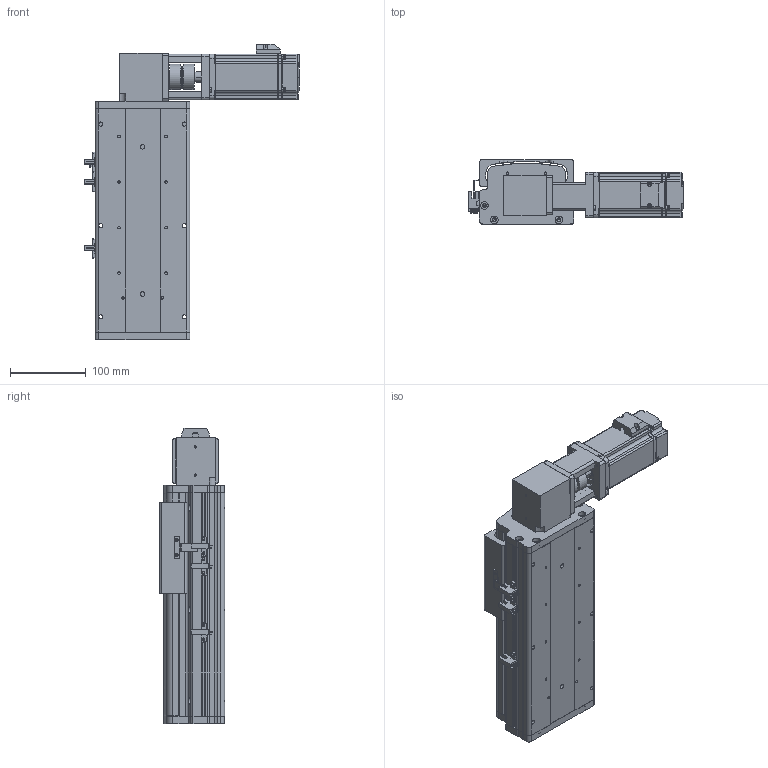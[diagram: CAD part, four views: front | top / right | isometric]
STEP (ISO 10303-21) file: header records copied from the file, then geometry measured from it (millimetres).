
FILE_DESCRIPTION (( 'STEP AP214' ), '1' );
FILE_NAME ('KSD125B-S100-MRT-CM.STEP', '2017-10-21T06:40:02', ( '微软用户' ), ( '微软中国' ), 'SwSTEP 2.0', 'SolidWorks 2014', '' );
FILE_SCHEMA (( 'AUTOMOTIVE_DESIGN' ));
Length unit declared in the file: millimetre
Products named in the file (16): KSD125B-S100-MRT-CM; 100宽马达安装板同步带左; KSD125模组100行程同步带-防尘盖; 125模组100行程同步带-底板; MHMD042G1CA_2_03; KSD125模组同步带-防撞垫2; CS-34X32-10X14; 100遵鎮湛假蚾啣1 ; 覜茼え68遵圉猾敕; U倰嫖萇假蚾璃; U倰嫖萇EEㄜSX672; KSD125模组同步带-防撞垫1; 100宽安装板同步带带电机座400W,86; 前端板-125宽模组同步带; 125模组同步带-尾端板1; KSD125模组同步带-滑动座1
Assembly tree (19 placements, depth 2):
  KSD125B-S100-MRT-CM
    KSD125模组同步带-滑动座1
    125模组同步带-尾端板1
    前端板-125宽模组同步带
    100宽安装板同步带带电机座400W,86
    KSD125模组同步带-防撞垫1
    U倰嫖萇EEㄜSX672  x3
    U倰嫖萇假蚾璃  x3
    覜茼え68遵圉猾敕
    100遵鎮湛假蚾啣1 
    CS-34X32-10X14
    KSD125模组同步带-防撞垫2
    MHMD042G1CA_2_03
    125模组100行程同步带-底板
    KSD125模组100行程同步带-防尘盖
    100宽马达安装板同步带左
Bounding box: 282.7 x 86 x 389 mm (x, y, z)
Volume: 1507346.8 mm3; surface area: 530586.8 mm2
Topology: 18 solids, 21 shells, 1584 faces, 4528 edges, 2984 vertices
Faces by surface type: cylinder 789, plane 692, cone 81, bspline 22
Entity records: 54984 total; most frequent: CARTESIAN_POINT 11210, DIRECTION 8023, ORIENTED_EDGE 7576, EDGE_CURVE 3866, AXIS2_PLACEMENT_3D 2949, VERTEX_POINT 2576, LINE 2125, VECTOR 2125
